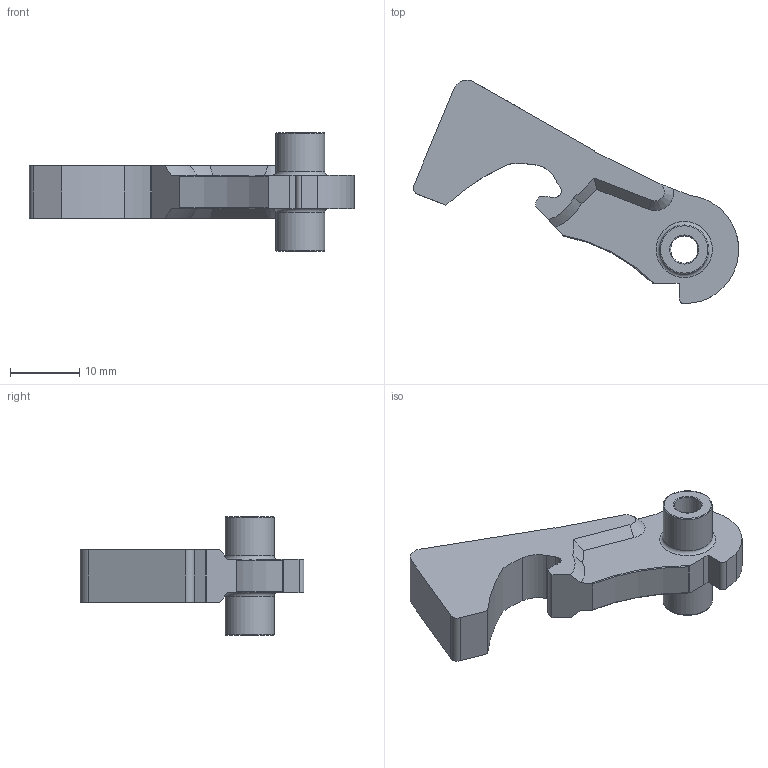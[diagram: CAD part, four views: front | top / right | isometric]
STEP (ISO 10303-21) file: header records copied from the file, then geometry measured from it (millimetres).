
FILE_DESCRIPTION(/* description */ (''),/* implementation_level */ '2;1');
FILE_NAME(/* name */ 'D:/Pew Pews/FGC-9_MkII_Stingray_Edition/Stingray Edition/.step files/2 - Lower/Hammer.step',/* time_stamp */ '2022-05-12T09:39:13-06:00',/* author */ (''),/* organization */ (''),/* preprocessor_version */ 'ST-DEVELOPER v18.1',/* originating_system */ 'Autodesk Translation Framework v10.10.0.1391',/* authorisation */ '');
FILE_SCHEMA (('AUTOMOTIVE_DESIGN { 1 0 10303 214 3 1 1 }'));
Length unit declared in the file: millimetre
Products named in the file (1): Hammer
Bounding box: 47.08 x 32.4 x 17.17 mm (x, y, z)
Volume: 3690.8 mm3; surface area: 2713.4 mm2
Topology: 1 solids, 1 shells, 68 faces, 179 edges, 117 vertices
Faces by surface type: cylinder 25, plane 23, torus 10, cone 6, bspline 4
Full cylindrical faces by diameter (mm): 0.813 x1, 3.9 x1, 3.962 x1, 7.112 x2, 7.366 x1
Entity records: 2394 total; most frequent: CARTESIAN_POINT 626, DIRECTION 379, ORIENTED_EDGE 358, EDGE_CURVE 179, AXIS2_PLACEMENT_3D 151, VERTEX_POINT 117, CIRCLE 80, LINE 77
